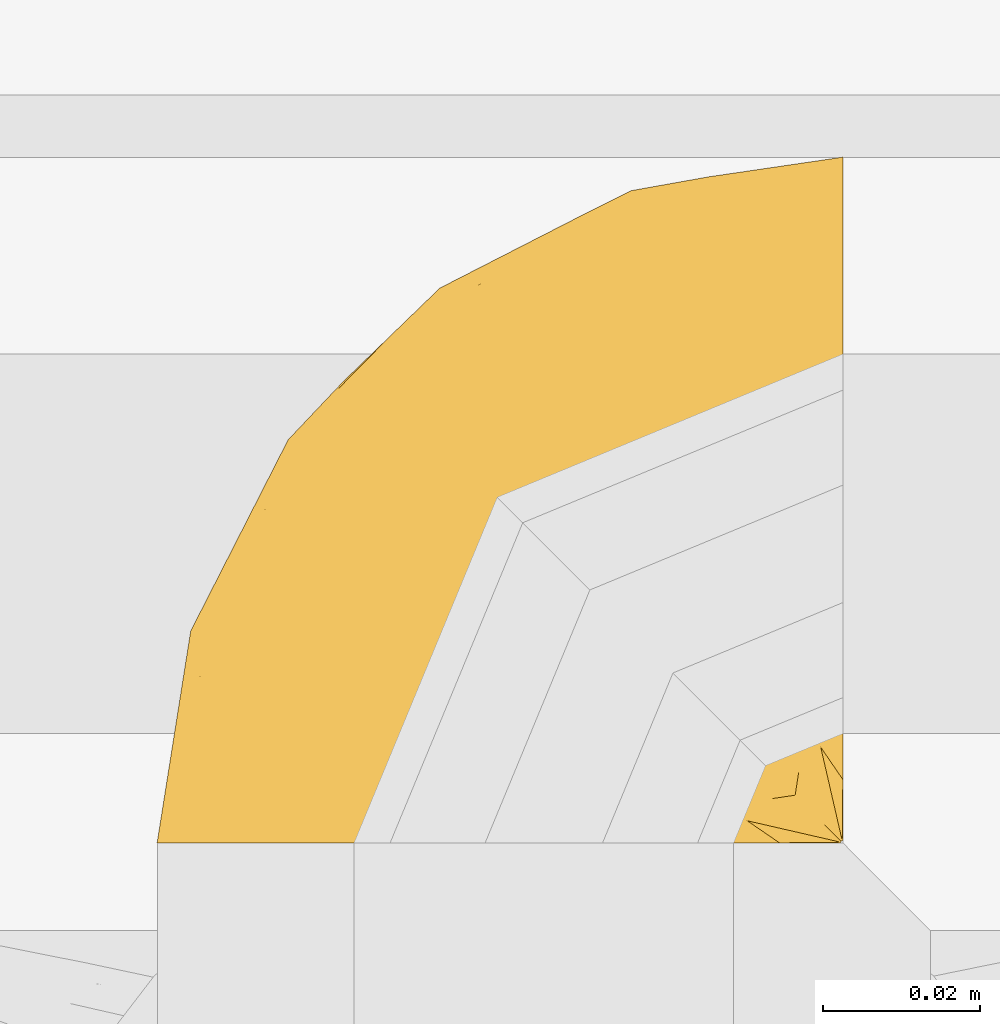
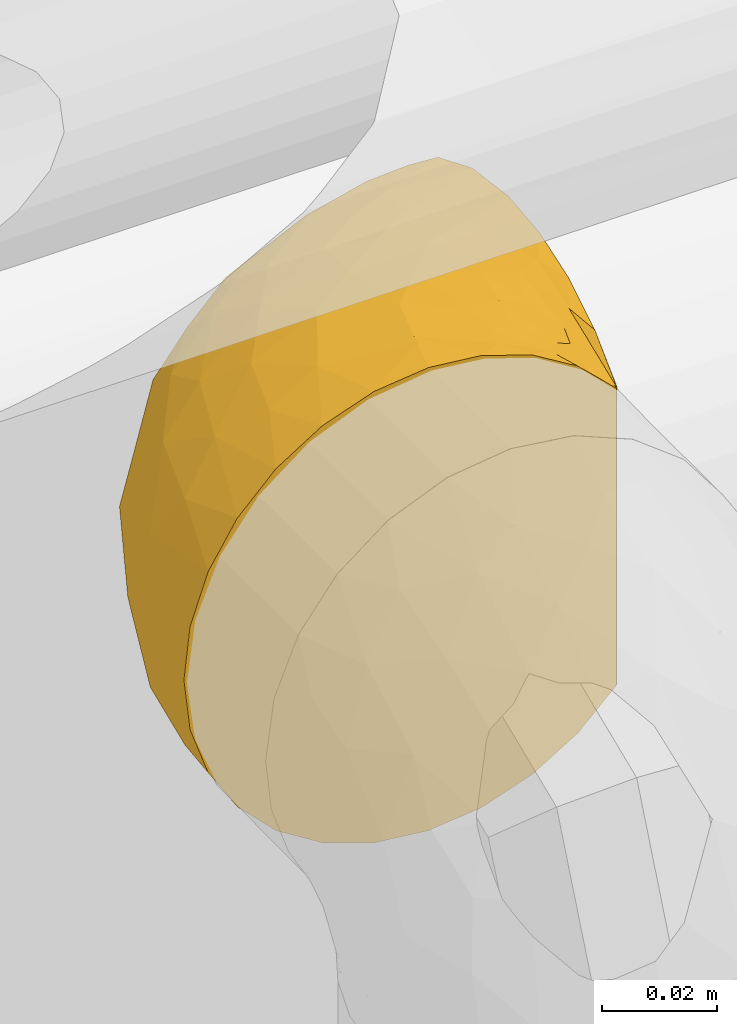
# One storey, part 48 of 94: 1 covering.
"""IFC2X3 building model written with IfcOpenShell, lengths in millimetres."""

from ifc_helpers import new_model, entity, si_unit, converted_unit, derived_unit, direction, frame, origin, place, context, subcontext, project, spatial, faceted_brep, material, element, save


model = new_model("IFC2X3")

# Units and contexts
model_context = context("Model", 3, precision=0.01, world=origin(), true_north=direction((6.123031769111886e-17, 1.0)))
body_context = subcontext(model_context, "Body", "Model", "MODEL_VIEW")
ifc_project = project(units=[si_unit("LENGTHUNIT", "METRE", prefix="MILLI"), si_unit("AREAUNIT", "SQUARE_METRE"), si_unit("VOLUMEUNIT", "CUBIC_METRE"), converted_unit("PLANEANGLEUNIT", "DEGREE", entity("IfcRatioMeasure", 0.017453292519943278), si_unit("PLANEANGLEUNIT", "RADIAN"), dimensions=[0, 0, 0, 0, 0, 0, 0]), si_unit("MASSUNIT", "GRAM", prefix="KILO"), derived_unit("MASSDENSITYUNIT", [(si_unit("MASSUNIT", "GRAM", prefix="KILO"), 1), (si_unit("LENGTHUNIT", "METRE"), -3)]), derived_unit("IONCONCENTRATIONUNIT", [(si_unit("MASSUNIT", "GRAM", prefix="KILO"), 1), (si_unit("LENGTHUNIT", "METRE"), -3)]), derived_unit("MOMENTOFINERTIAUNIT", [(si_unit("LENGTHUNIT", "METRE"), 4)]), si_unit("TIMEUNIT", "SECOND"), si_unit("FREQUENCYUNIT", "HERTZ"), si_unit("THERMODYNAMICTEMPERATUREUNIT", "DEGREE_CELSIUS"), derived_unit("THERMALTRANSMITTANCEUNIT", [(si_unit("MASSUNIT", "GRAM", prefix="KILO"), 1), (si_unit("THERMODYNAMICTEMPERATUREUNIT", "KELVIN"), -1), (si_unit("TIMEUNIT", "SECOND"), -3)]), derived_unit("THERMALCONDUCTANCEUNIT", [(si_unit("MASSUNIT", "GRAM", prefix="KILO"), 1), (si_unit("THERMODYNAMICTEMPERATUREUNIT", "KELVIN"), -1), (si_unit("TIMEUNIT", "SECOND"), -3), (si_unit("LENGTHUNIT", "METRE"), 1)]), derived_unit("VOLUMETRICFLOWRATEUNIT", [(si_unit("LENGTHUNIT", "METRE"), 3), (si_unit("TIMEUNIT", "SECOND"), -1)]), derived_unit("MASSFLOWRATEUNIT", [(si_unit("MASSUNIT", "GRAM", prefix="KILO"), 1), (si_unit("TIMEUNIT", "SECOND"), -1)]), derived_unit("ROTATIONALFREQUENCYUNIT", [(si_unit("TIMEUNIT", "SECOND"), -1)]), si_unit("ELECTRICCURRENTUNIT", "AMPERE"), si_unit("ELECTRICVOLTAGEUNIT", "VOLT"), si_unit("POWERUNIT", "WATT"), si_unit("FORCEUNIT", "NEWTON", prefix="KILO"), si_unit("ILLUMINANCEUNIT", "LUX"), si_unit("LUMINOUSFLUXUNIT", "LUMEN"), si_unit("LUMINOUSINTENSITYUNIT", "CANDELA"), derived_unit("USERDEFINED", [(si_unit("MASSUNIT", "GRAM", prefix="KILO"), -1), (si_unit("LENGTHUNIT", "METRE"), -2), (si_unit("TIMEUNIT", "SECOND"), 3), (si_unit("LUMINOUSFLUXUNIT", "LUMEN"), 1)]), derived_unit("USERDEFINED", [(si_unit("MASSUNIT", "GRAM", prefix="KILO"), 1), (si_unit("TIMEUNIT", "SECOND"), -3), (si_unit("LENGTHUNIT", "METRE"), 3), (si_unit("ELECTRICCURRENTUNIT", "AMPERE"), -2)]), derived_unit("SOUNDPOWERUNIT", [(si_unit("MASSUNIT", "GRAM", prefix="KILO"), 1), (si_unit("TIMEUNIT", "SECOND"), -3), (si_unit("LENGTHUNIT", "METRE"), 2)]), derived_unit("SOUNDPRESSUREUNIT", [(si_unit("MASSUNIT", "GRAM", prefix="KILO"), 1), (si_unit("LENGTHUNIT", "METRE"), -1), (si_unit("TIMEUNIT", "SECOND"), -2)]), derived_unit("LINEARVELOCITYUNIT", [(si_unit("LENGTHUNIT", "METRE"), 1), (si_unit("TIMEUNIT", "SECOND"), -1)]), si_unit("PRESSUREUNIT", "PASCAL"), derived_unit("USERDEFINED", [(si_unit("MASSUNIT", "GRAM", prefix="KILO"), 1), (si_unit("LENGTHUNIT", "METRE"), -2), (si_unit("TIMEUNIT", "SECOND"), -2)]), derived_unit("LINEARFORCEUNIT", [(si_unit("MASSUNIT", "GRAM", prefix="KILO"), 1), (si_unit("TIMEUNIT", "SECOND"), -2)]), derived_unit("PLANARFORCEUNIT", [(si_unit("MASSUNIT", "GRAM", prefix="KILO"), 1), (si_unit("LENGTHUNIT", "METRE"), -1), (si_unit("TIMEUNIT", "SECOND"), -2)]), derived_unit("SPECIFICHEATCAPACITYUNIT", [(si_unit("THERMODYNAMICTEMPERATUREUNIT", "KELVIN"), -1), (si_unit("LENGTHUNIT", "METRE"), 2), (si_unit("TIMEUNIT", "SECOND"), -2)]), derived_unit("HEATINGVALUEUNIT", [(si_unit("LENGTHUNIT", "METRE"), 2), (si_unit("TIMEUNIT", "SECOND"), -2)]), derived_unit("VAPORPERMEABILITYUNIT", [(si_unit("LENGTHUNIT", "METRE"), -1), (si_unit("TIMEUNIT", "SECOND"), 1)]), derived_unit("DYNAMICVISCOSITYUNIT", [(si_unit("MASSUNIT", "GRAM", prefix="KILO"), 1), (si_unit("TIMEUNIT", "SECOND"), -1), (si_unit("LENGTHUNIT", "METRE"), -1)]), derived_unit("THERMALEXPANSIONCOEFFICIENTUNIT", [(si_unit("THERMODYNAMICTEMPERATUREUNIT", "KELVIN"), -1)]), derived_unit("MODULUSOFELASTICITYUNIT", [(si_unit("MASSUNIT", "GRAM", prefix="KILO"), 1), (si_unit("LENGTHUNIT", "METRE"), -1), (si_unit("TIMEUNIT", "SECOND"), -2)]), derived_unit("ISOTHERMALMOISTURECAPACITYUNIT", [(si_unit("LENGTHUNIT", "METRE"), 3), (si_unit("MASSUNIT", "GRAM", prefix="KILO"), -1)]), derived_unit("MOISTUREDIFFUSIVITYUNIT", [(si_unit("TIMEUNIT", "SECOND"), -1), (si_unit("LENGTHUNIT", "METRE"), 2)])], contexts=[model_context])

# Site, building, storey
site_placement = place(None, origin())
site = spatial("IfcSite", under=ifc_project, at=site_placement, Name="Default", CompositionType="ELEMENT")
building_placement = place(site_placement, origin())
building = spatial("IfcBuilding", under=site, at=building_placement, CompositionType="ELEMENT")
storey_placement = place(building_placement, origin())
storey = spatial("IfcBuildingStorey", under=building, at=storey_placement, Name="Niveau 0", CompositionType="ELEMENT", Elevation=0.0)

# Covering
ifc_material = material(Name="Isolation - Laine minérale")
covering_placement = place(storey_placement, frame((-7722.8911377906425, 9987.25035233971, 2299.2547277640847)))
element("IfcCovering", 1, at=covering_placement, inside=storey, material=ifc_material, Name="Isolation des canalisations:Laine minérale", ObjectType="Isolation des canalisations:Laine minérale", PredefinedType="INSULATION", context=body_context, shape_type="Brep", body=[
    faceted_brep([(29.412134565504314, 1.5952722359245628, 95.02415814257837), (20.093252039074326, 1.5952722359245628, 89.16631019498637), (12.312548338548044, 1.5952722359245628, 81.38263886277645), (6.459227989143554, 1.5952722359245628, 72.06354573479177), (2.8261403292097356, 1.5952722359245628, 61.67593083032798), (1.5952722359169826, 1.5952722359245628, 50.74527223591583), (2.8288129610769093, 1.5952722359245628, 39.80290363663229), (6.466386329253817, 1.5952722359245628, 29.4121345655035), (12.324234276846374, 1.5952722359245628, 20.093252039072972), (20.107905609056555, 1.5952722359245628, 12.312548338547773), (29.42699873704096, 1.5952722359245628, 6.459227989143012), (39.81461364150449, 1.5952722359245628, 2.826140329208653), (50.74527223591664, 1.5952722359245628, 1.5952722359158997), (61.40435822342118, 1.5952722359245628, 2.765001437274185), (71.55257335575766, 1.5952722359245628, 6.216868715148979), (80.70896636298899, 1.5952722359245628, 11.785042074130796), (88.43165280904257, 1.5952722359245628, 19.194373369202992), (88.43165280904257, 1.5952722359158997, 21.638642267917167), (88.43165280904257, 1.5952722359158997, 23.415694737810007), (88.43165280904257, 1.5952722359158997, 25.192747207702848), (88.43165280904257, 1.5952722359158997, 26.692340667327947), (88.43165280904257, 1.5952722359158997, 28.191934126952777), (88.43165280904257, 1.5952722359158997, 31.191121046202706), (88.43165280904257, 1.5952722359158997, 34.19030796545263), (88.43165280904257, 1.5952722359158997, 37.18949488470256), (88.43165280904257, 1.5952722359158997, 40.18868180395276), (88.43165280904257, 1.5952722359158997, 41.688275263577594), (88.43165280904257, 1.5952722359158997, 43.18786872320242), (88.43165280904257, 1.5952722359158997, 45.6321376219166), (88.43165280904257, 1.5952722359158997, 48.07640652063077), (88.43165280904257, 1.5952722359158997, 50.52067541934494), (88.43165280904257, 1.5952722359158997, 52.96494431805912), (88.43165280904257, 1.5952722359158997, 55.40921321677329), (88.43165280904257, 1.5952722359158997, 57.853482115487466), (88.43165280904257, 1.5952722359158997, 60.29775101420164), (88.43165280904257, 1.5952722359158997, 62.742019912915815), (88.43165280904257, 1.5952722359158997, 65.18628881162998), (88.43165280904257, 1.5952722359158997, 67.63055771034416), (88.43165280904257, 1.5952722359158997, 70.07482660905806), (88.43165280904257, 1.5952722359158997, 72.51909550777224), (88.43165280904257, 1.5952722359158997, 74.96336440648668), (88.43165280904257, 1.5952722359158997, 77.40763330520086), (88.43165280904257, 1.5952722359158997, 79.85190220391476), (88.43165280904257, 1.5952722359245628, 82.29617110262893), (80.69235262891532, 1.5952722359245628, 89.71827412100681), (71.53113811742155, 1.5952722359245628, 95.28368576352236), (61.383900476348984, 1.5952722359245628, 98.7300832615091), (50.74527223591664, 1.5952722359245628, 99.89527223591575), (39.802903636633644, 1.5952722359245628, 98.6617315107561), (88.74527223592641, 1.908891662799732, 19.194373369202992), (88.74527223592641, 9.641963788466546, 11.777056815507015), (88.74527223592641, 18.798688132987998, 6.211862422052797), (88.74527223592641, 28.94385431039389, 2.7632985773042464), (88.74527223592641, 39.59527223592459, 1.5952722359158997), (88.74527223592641, 52.31622830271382, 3.2700178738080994), (88.74527223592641, 64.1702722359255, 8.180123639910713), (88.74527223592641, 74.34957053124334, 15.990973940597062), (88.74527223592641, 82.16042083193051, 26.17027223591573), (88.74527223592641, 87.07052659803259, 38.02431616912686), (88.74527223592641, 88.74527223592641, 50.74527223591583), (88.74527223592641, 87.07052659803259, 63.46622830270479), (88.74527223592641, 82.16042083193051, 75.32027223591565), (88.74527223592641, 74.34957053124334, 85.49957053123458), (88.74527223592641, 64.1702722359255, 93.31042083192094), (88.74527223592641, 52.31622830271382, 98.22052659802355), (88.74527223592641, 39.59527223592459, 99.89527223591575), (88.74527223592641, 28.94385431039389, 98.7272458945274), (88.74527223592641, 18.798688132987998, 95.27868204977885), (88.74527223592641, 9.641963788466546, 89.7134876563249), (88.74527223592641, 1.908891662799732, 82.29617110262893), (88.74527223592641, 1.908891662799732, 79.85190220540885), (88.74527223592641, 1.908891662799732, 78.35230874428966), (88.74527223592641, 1.908891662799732, 76.38037756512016), (88.74527223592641, 1.908891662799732, 74.40844638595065), (88.74527223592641, 1.908891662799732, 72.43651520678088), (88.74527223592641, 1.908891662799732, 70.46458402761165), (88.74527223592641, 1.908891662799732, 68.49265284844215), (88.74527223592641, 1.908891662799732, 66.52072166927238), (88.74527223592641, 1.908891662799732, 64.54879049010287), (88.74527223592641, 1.908891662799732, 62.57685931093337), (88.74527223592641, 1.908891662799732, 60.60492813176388), (88.74527223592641, 1.908891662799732, 58.632996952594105), (88.74527223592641, 1.908891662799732, 56.66106577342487), (88.74527223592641, 1.908891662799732, 54.6891345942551), (88.74527223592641, 1.908891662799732, 52.7172034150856), (88.74527223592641, 1.908891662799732, 50.7452722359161), (88.74527223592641, 1.908891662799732, 48.773341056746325), (88.74527223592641, 1.908891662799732, 46.80140987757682), (88.74527223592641, 1.908891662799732, 44.82947869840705), (88.74527223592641, 1.908891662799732, 42.85754751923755), (88.74527223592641, 1.908891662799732, 40.88561634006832), (88.74527223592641, 1.908891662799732, 38.913685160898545), (88.74527223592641, 1.908891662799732, 36.94175398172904), (88.74527223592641, 1.908891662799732, 34.96982280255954), (88.74527223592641, 1.908891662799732, 31.970635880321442), (88.74527223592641, 1.908891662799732, 28.971448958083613), (88.74527223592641, 1.908891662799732, 26.527180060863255), (88.74527223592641, 1.908891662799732, 24.082911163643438), (88.74527223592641, 1.908891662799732, 21.63864226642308), (88.53090125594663, 1.8241875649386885, 53.75333970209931), (88.52210831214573, 1.8156242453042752, 51.832765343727), (88.52122178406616, 1.8147227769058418, 61.47290163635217), (88.52777998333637, 1.8212241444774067, 63.56282540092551), (88.54092532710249, 1.8331787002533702, 48.00102702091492), (88.53506454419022, 1.828016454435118, 77.24999397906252), (88.49130573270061, 1.7792781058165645, 80.69913834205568), (88.51810292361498, 1.8114926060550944, 42.43807145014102), (88.52350981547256, 1.817034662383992, 22.860776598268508), (88.52548149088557, 1.81898896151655, 24.700216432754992), (88.5165327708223, 1.8098308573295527, 71.37008955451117), (88.52674320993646, 1.820221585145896, 73.40383885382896), (88.50469006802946, 1.7964621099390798, 44.41000264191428), (88.52964682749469, 1.8230063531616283, 37.92771907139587), (88.53317608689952, 1.826296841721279, 39.81308540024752), (88.51585328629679, 1.8091041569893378, 35.95578792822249), (88.52914218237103, 1.8225274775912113, 49.75930651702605), (88.52350981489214, 1.817034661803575, 79.10210557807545), (88.52591800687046, 1.8194169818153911, 21.027574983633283), (88.53664906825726, 1.8294378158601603, 55.67510065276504), (88.53747885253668, 1.8301744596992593, 67.50668767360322), (88.532731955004, 1.825888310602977, 65.61454699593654), (88.53426299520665, 1.8272900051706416, 34.10458092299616), (88.5337000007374, 1.8267767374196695, 57.55217518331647), (88.53493173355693, 1.8278964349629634, 75.39441218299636), (88.52350981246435, 1.8170346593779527, 82.29617110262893), (88.49487979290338, 1.747915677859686, 82.29617110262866), (88.46624977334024, 1.6787966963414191, 82.29617110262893), (88.52350981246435, 1.8170346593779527, 19.194373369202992), (88.59262879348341, 1.8456646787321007, 19.194373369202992), (88.66174777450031, 1.8742946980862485, 19.194373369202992), (88.51000647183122, 1.8026539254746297, 32.212157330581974), (88.53042484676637, 1.8237404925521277, 69.43559223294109), (88.5224676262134, 1.8159875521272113, 46.24828797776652), (88.52470424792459, 1.8182226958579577, 59.49061335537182), (88.5057932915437, 1.7977740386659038, 29.419252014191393), (88.5274414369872, 1.8208977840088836, 27.442137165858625), (88.66174777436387, 1.8742946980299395, 82.29617110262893), (88.5926287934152, 1.8456646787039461, 82.29617110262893), (88.46624977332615, 1.678796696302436, 19.194373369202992), (88.4948797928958, 1.7479156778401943, 19.194373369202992), (85.22080157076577, 23.495219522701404, 4.210283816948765), (85.93611072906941, 13.747756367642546, 8.74417984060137), (81.0780784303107, 22.409779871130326, 4.210283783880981), (83.13289242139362, 10.562522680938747, 9.955583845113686), (79.24527223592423, 37.049754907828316, 1.5952722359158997), (81.28890223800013, 37.59734391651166, 1.5952722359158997), (55.83630689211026, 20.595272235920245, 1.5952722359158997), (66.39553001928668, 16.02014974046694, 2.93549782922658), (67.9404040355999, 9.26167767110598, 4.213452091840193), (69.74527223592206, 34.50423757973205, 1.5952722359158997), (80.67378389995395, 9.667897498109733, 9.405305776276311), (79.7889209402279, 7.2029124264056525, 9.963487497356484), (74.32109358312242, 23.944746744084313, 2.935641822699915), (66.85470593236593, 5.119390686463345, 4.213452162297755), (76.60336361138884, 4.4028932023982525, 8.750654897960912), (79.64911936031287, 17.541506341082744, 5.69062779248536), (52.743200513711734, 9.051642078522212, 1.5952722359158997), (53.29078956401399, 11.095272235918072, 1.5952722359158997), (73.61168493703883, 16.728859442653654, 4.482619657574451), (62.790789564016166, 27.549754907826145, 1.5952722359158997), (73.87988529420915, 12.071559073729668, 5.766057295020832), (75.32913676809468, 47.623950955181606, 2.6117250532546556), (65.9107418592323, 44.00144112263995, 2.657531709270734), (53.847614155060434, 58.899698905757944, 11.131578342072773), (59.13651173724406, 72.66771487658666, 20.82464790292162), (71.166122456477, 67.20155656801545, 11.751954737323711), (67.0054527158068, 54.07984229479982, 5.336592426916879), (78.8805128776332, 57.54110754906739, 5.336592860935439), (37.51978749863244, 72.10110329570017, 50.74527223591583), (61.81444117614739, 84.47984763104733, 50.74527223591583), (53.875201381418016, 80.24801351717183, 40.33973954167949), (25.784943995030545, 13.851436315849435, 9.12424327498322), (36.24418276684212, 15.165285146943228, 4.351045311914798), (29.56288236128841, 60.77765845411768, 32.64695426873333), (30.77068194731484, 55.38583609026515, 23.76890934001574), (15.292222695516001, 43.89737524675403, 35.61531809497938), (71.31385843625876, 86.12648113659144, 41.696133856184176), (47.2410274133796, 73.23168363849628, 30.50981773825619), (43.50389303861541, 64.74738573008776, 21.748430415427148), (75.2898525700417, 77.40373146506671, 20.824647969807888), (67.10273039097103, 82.14716981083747, 31.93638275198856), (37.099200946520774, 52.829115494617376, 15.984346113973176), (44.51517687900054, 48.878965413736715, 9.509703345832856), (33.70477633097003, 40.607220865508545, 11.405769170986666), (44.05169469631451, 28.769953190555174, 3.7235321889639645), (30.044081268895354, 27.448445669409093, 9.124242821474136), (18.312338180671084, 19.800365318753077, 15.984347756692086), (5.8606968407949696, 28.52610329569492, 50.74527223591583), (7.041406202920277, 22.71562192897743, 34.50535109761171), (25.614469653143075, 42.31748570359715, 18.53593481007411), (15.886915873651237, 33.68382770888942, 24.588194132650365), (10.600409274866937, 16.806973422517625, 24.588193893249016), (38.50378416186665, 71.07858054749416, 39.07585882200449), (25.345180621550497, 60.332491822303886, 42.346184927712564), (53.163504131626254, 33.37332146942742, 2.5632520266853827), (18.239441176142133, 52.82075697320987, 50.74527223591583), (52.694698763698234, 43.46542968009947, 4.722449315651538), (58.17589226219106, 79.20017463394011, 69.55416102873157), (71.70091272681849, 86.24488809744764, 59.58510784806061), (54.57433327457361, 80.83807017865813, 59.865425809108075), (42.49805076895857, 72.52816019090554, 66.13789702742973), (75.06235489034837, 83.87397883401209, 69.55416221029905), (24.5251412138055, 35.798660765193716, 85.49332197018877), (25.786342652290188, 48.02046276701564, 78.98858976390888), (15.878231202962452, 33.68736739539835, 76.88743080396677), (37.089792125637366, 52.83844921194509, 85.49294527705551), (35.71336208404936, 59.75598123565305, 78.28666517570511), (36.231508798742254, 15.17001623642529, 97.1347911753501), (70.53804152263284, 45.55141709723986, 98.95303587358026), (69.74527223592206, 34.50423757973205, 99.89527223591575), (79.24527223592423, 37.049754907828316, 99.89527223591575), (7.0362994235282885, 22.71467774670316, 66.97173870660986), (69.24086116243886, 76.07714087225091, 80.66589652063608), (30.030512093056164, 27.454651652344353, 92.35692696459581), (25.77024521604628, 13.854008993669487, 92.35692651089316), (76.87540408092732, 68.47065883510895, 89.73858944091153), (74.00473445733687, 56.45843349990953, 96.15395178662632), (48.41047025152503, 68.0885450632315, 79.62483877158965), (62.62553049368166, 64.29272071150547, 89.73859028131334), (31.220776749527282, 66.01125638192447, 59.508159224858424), (29.560345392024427, 60.78019542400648, 68.8345286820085), (79.82666983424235, 48.01911236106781, 99.01263503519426), (10.591274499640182, 16.809109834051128, 76.887431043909), (15.287247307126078, 43.900853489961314, 65.85652255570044), (18.29950680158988, 19.803681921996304, 85.49294363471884), (44.04987097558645, 28.78672684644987, 97.76388503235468), (55.83630689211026, 20.595272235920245, 99.89527223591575), (54.23536248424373, 35.48506655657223, 98.78930951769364), (62.790789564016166, 27.549754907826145, 99.89527223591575), (52.74320051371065, 9.051642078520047, 99.89527223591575), (53.29078956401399, 11.095272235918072, 99.89527223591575), (48.412115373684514, 53.16291239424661, 91.50386042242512), (64.143047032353, 52.0530845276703, 96.42683125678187), (40.10640265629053, 41.40103739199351, 93.1499194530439), (62.89073418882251, 40.721221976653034, 99.08337182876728), (47.672778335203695, 60.91677547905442, 86.09107557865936), (55.38955823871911, 45.94061161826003, 96.67816905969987), (81.07807840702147, 22.409778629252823, 97.28026029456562), (78.26566497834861, 16.464254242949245, 95.72662397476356), (74.32072912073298, 23.943292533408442, 98.55465842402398), (85.22080145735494, 23.49521891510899, 97.2802604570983), (85.93611080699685, 13.747755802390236, 92.74636428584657), (83.13257230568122, 10.564867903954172, 91.53641117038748), (82.68198005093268, 7.656624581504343, 90.11275627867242), (73.61706381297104, 16.72348133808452, 97.00519514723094), (79.75777141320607, 7.216517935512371, 91.54965419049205), (67.91845358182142, 9.263185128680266, 97.28427045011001), (66.83334757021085, 5.119593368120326, 97.284270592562), (76.58449008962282, 4.4058785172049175, 92.75147496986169), (66.39770760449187, 16.01862728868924, 98.55441347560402), (72.78382599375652, 10.692146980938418, 95.80583125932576)], [[[0, 1, 2, 3, 4, 5, 6, 7, 8, 9, 10, 11, 12, 13, 14, 15, 16, 17, 18, 19, 20, 21, 22, 23, 24, 25, 26, 27, 28, 29, 30, 31, 32, 33, 34, 35, 36, 37, 38, 39, 40, 41, 42, 43, 44, 45, 46, 47, 48]], [[49, 50, 51, 52, 53, 54, 55, 56, 57, 58, 59, 60, 61, 62, 63, 64, 65, 66, 67, 68, 69, 70, 71, 72, 73, 74, 75, 76, 77, 78, 79, 80, 81, 82, 83, 84, 85, 86, 87, 88, 89, 90, 91, 92, 93, 94, 95, 96, 97, 98]], [[99, 100, 84]], [[101, 102, 35]], [[86, 103, 87]], [[72, 71, 104]], [[105, 70, 69]], [[27, 26, 106]], [[18, 107, 108]], [[109, 74, 110]], [[28, 27, 111]], [[25, 112, 113]], [[108, 97, 96]], [[114, 93, 92]], [[103, 86, 115]], [[97, 107, 98]], [[116, 71, 70]], [[107, 17, 117]], [[79, 102, 101]], [[99, 118, 32]], [[77, 119, 120]], [[121, 93, 114]], [[112, 91, 113]], [[89, 111, 106]], [[40, 39, 110]], [[107, 97, 108]], [[32, 118, 122]], [[92, 91, 112]], [[37, 120, 119]], [[85, 115, 86]], [[70, 105, 116]], [[72, 123, 73]], [[105, 124, 125, 126, 43]], [[117, 17, 16]], [[41, 116, 42]], [[117, 127, 128, 129, 49]], [[110, 123, 40]], [[42, 116, 105]], [[121, 23, 130]], [[24, 114, 112]], [[114, 24, 23]], [[104, 123, 72]], [[92, 112, 114]], [[104, 116, 41]], [[24, 112, 25]], [[110, 73, 123]], [[36, 120, 37]], [[40, 123, 41]], [[75, 74, 109]], [[131, 76, 75]], [[119, 131, 37]], [[109, 110, 39]], [[109, 39, 38]], [[74, 73, 110]], [[123, 104, 41]], [[116, 104, 71]], [[26, 25, 113]], [[113, 90, 106]], [[88, 87, 132]], [[113, 106, 26]], [[77, 76, 119]], [[132, 111, 88]], [[106, 111, 27]], [[132, 28, 111]], [[88, 111, 89]], [[89, 106, 90]], [[113, 91, 90]], [[131, 119, 76]], [[38, 37, 131]], [[120, 36, 102]], [[131, 109, 38]], [[109, 131, 75]], [[79, 78, 102]], [[78, 120, 102]], [[78, 77, 120]], [[122, 81, 133]], [[36, 35, 102]], [[33, 122, 133]], [[80, 79, 101]], [[34, 101, 35]], [[132, 29, 28]], [[81, 80, 133]], [[29, 103, 115]], [[30, 29, 115]], [[87, 103, 132]], [[100, 115, 85]], [[31, 30, 100]], [[115, 100, 30]], [[32, 31, 99]], [[118, 82, 122]], [[100, 85, 84]], [[99, 83, 118]], [[82, 118, 83]], [[33, 32, 122]], [[83, 99, 84]], [[100, 99, 31]], [[34, 33, 133]], [[122, 82, 81]], [[133, 101, 34]], [[101, 133, 80]], [[134, 95, 94]], [[23, 121, 114]], [[132, 103, 29]], [[121, 94, 93]], [[94, 121, 130]], [[98, 107, 117]], [[108, 20, 19, 18]], [[21, 135, 134]], [[20, 135, 21]], [[134, 135, 95]], [[108, 96, 135]], [[108, 135, 20]], [[135, 96, 95]], [[134, 22, 21]], [[130, 22, 134]], [[42, 105, 43]], [[105, 69, 136, 137, 124]], [[98, 117, 49]], [[117, 16, 138, 139, 127]], [[18, 17, 107]], [[94, 130, 134]], [[22, 130, 23]], [[140, 141, 142]], [[143, 129, 128, 127]], [[52, 144, 145, 53]], [[146, 147, 148]], [[142, 149, 144]], [[150, 127, 151]], [[51, 140, 52]], [[142, 152, 149]], [[52, 140, 144]], [[129, 143, 141]], [[14, 13, 153]], [[148, 151, 154]], [[155, 141, 143]], [[151, 138, 154]], [[14, 153, 154]], [[16, 15, 138]], [[13, 12, 156, 157]], [[152, 155, 158]], [[159, 158, 147]], [[157, 148, 153]], [[14, 154, 15]], [[50, 49, 129]], [[50, 129, 141]], [[141, 51, 50]], [[160, 148, 147]], [[146, 148, 157]], [[138, 15, 154]], [[150, 158, 155]], [[151, 127, 139, 138]], [[141, 140, 51]], [[144, 140, 142]], [[157, 153, 13]], [[154, 153, 148]], [[149, 152, 159]], [[160, 147, 158]], [[147, 146, 159]], [[155, 152, 142]], [[159, 152, 158]], [[127, 150, 143]], [[160, 150, 151]], [[150, 160, 158]], [[148, 160, 151]], [[141, 155, 142]], [[155, 143, 150]], [[156, 12, 11]], [[161, 149, 162]], [[163, 164, 165]], [[166, 167, 161]], [[168, 169, 170]], [[55, 165, 56]], [[171, 172, 10]], [[173, 174, 175]], [[58, 176, 59]], [[173, 177, 178]], [[179, 57, 56]], [[55, 167, 165]], [[170, 180, 177]], [[57, 179, 180]], [[167, 55, 54]], [[181, 182, 183]], [[184, 146, 172]], [[172, 185, 184]], [[186, 185, 171]], [[186, 9, 8]], [[172, 146, 157, 156]], [[172, 11, 10]], [[173, 178, 174]], [[6, 187, 188]], [[189, 186, 190]], [[191, 186, 8]], [[175, 190, 188]], [[168, 192, 193]], [[189, 190, 174]], [[57, 180, 58]], [[8, 7, 191]], [[188, 7, 6]], [[6, 5, 187]], [[190, 191, 188]], [[159, 194, 162]], [[175, 187, 195]], [[177, 180, 164]], [[10, 9, 171]], [[176, 180, 170]], [[156, 11, 172]], [[163, 165, 166]], [[179, 165, 164]], [[54, 53, 145]], [[185, 189, 183]], [[184, 196, 194]], [[188, 191, 7]], [[186, 191, 190]], [[186, 171, 9]], [[172, 171, 185]], [[187, 175, 188]], [[193, 175, 195]], [[196, 163, 166]], [[163, 181, 178]], [[162, 166, 161]], [[184, 185, 183]], [[178, 177, 164]], [[177, 192, 170]], [[177, 173, 192]], [[176, 170, 169]], [[59, 176, 169]], [[58, 180, 176]], [[193, 192, 173]], [[168, 170, 192]], [[175, 193, 173]], [[168, 193, 195]], [[163, 178, 164]], [[184, 194, 146]], [[178, 181, 174]], [[189, 174, 181]], [[175, 174, 190]], [[183, 189, 181]], [[186, 189, 185]], [[182, 181, 163]], [[183, 182, 184]], [[163, 196, 182]], [[184, 182, 196]], [[165, 179, 56]], [[180, 179, 164]], [[161, 54, 145]], [[165, 167, 166]], [[54, 161, 167]], [[161, 145, 144, 149]], [[159, 162, 149]], [[196, 166, 162]], [[162, 194, 196]], [[146, 194, 159]], [[197, 198, 199]], [[59, 169, 198]], [[197, 199, 200]], [[198, 197, 201]], [[202, 203, 204]], [[61, 60, 201]], [[205, 206, 203]], [[0, 48, 207]], [[208, 209, 210]], [[187, 4, 211]], [[201, 212, 61]], [[213, 214, 207]], [[62, 215, 63]], [[63, 215, 216]], [[3, 211, 4]], [[217, 218, 212]], [[219, 220, 200]], [[216, 208, 221]], [[3, 2, 222]], [[63, 216, 64]], [[62, 61, 212]], [[211, 3, 222]], [[5, 4, 187]], [[217, 197, 200]], [[203, 223, 204]], [[2, 1, 224]], [[225, 213, 207]], [[204, 222, 224]], [[1, 0, 214]], [[204, 224, 202]], [[207, 226, 225]], [[227, 226, 228]], [[223, 211, 204]], [[214, 224, 1]], [[202, 224, 213]], [[48, 47, 229]], [[207, 229, 230, 226]], [[211, 223, 187]], [[218, 231, 232]], [[48, 229, 207]], [[205, 233, 231]], [[233, 213, 225]], [[217, 212, 197]], [[215, 212, 218]], [[228, 234, 227]], [[233, 205, 202]], [[208, 234, 209]], [[64, 221, 65]], [[235, 205, 231]], [[207, 214, 0]], [[224, 214, 213]], [[224, 222, 2]], [[211, 222, 204]], [[219, 223, 220]], [[187, 223, 195]], [[227, 233, 225]], [[234, 228, 209]], [[231, 233, 236]], [[221, 208, 210]], [[232, 208, 216]], [[65, 221, 210]], [[216, 221, 64]], [[233, 202, 213]], [[203, 202, 205]], [[205, 235, 206]], [[223, 203, 220]], [[200, 206, 217]], [[220, 203, 206]], [[232, 231, 236]], [[235, 218, 217]], [[212, 215, 62]], [[216, 215, 218]], [[218, 232, 216]], [[234, 232, 236]], [[232, 234, 208]], [[234, 236, 227]], [[233, 227, 236]], [[226, 227, 225]], [[198, 201, 60]], [[212, 201, 197]], [[59, 198, 60]], [[198, 169, 199]], [[169, 168, 199]], [[219, 200, 199]], [[219, 199, 168]], [[200, 220, 206]], [[168, 195, 219]], [[223, 219, 195]], [[218, 235, 231]], [[206, 235, 217]], [[66, 65, 210]], [[209, 237, 210]], [[238, 237, 239]], [[67, 240, 241]], [[242, 136, 241]], [[243, 137, 242]], [[243, 244, 245]], [[66, 240, 67]], [[136, 69, 68]], [[136, 68, 241]], [[246, 226, 230]], [[67, 241, 68]], [[210, 237, 240]], [[45, 247, 46]], [[209, 239, 237]], [[246, 247, 248]], [[46, 247, 230]], [[249, 250, 244]], [[239, 228, 244]], [[226, 246, 249]], [[250, 248, 245]], [[44, 43, 126]], [[237, 242, 241]], [[248, 45, 44]], [[44, 126, 248]], [[46, 230, 229, 47]], [[245, 126, 125]], [[126, 245, 248]], [[243, 124, 137]], [[210, 240, 66]], [[241, 240, 237]], [[248, 247, 45]], [[230, 247, 246]], [[226, 249, 228]], [[238, 239, 244]], [[239, 209, 228]], [[250, 249, 246]], [[228, 249, 244]], [[243, 242, 238]], [[136, 242, 137]], [[124, 243, 125]], [[125, 243, 245]], [[243, 238, 244]], [[237, 238, 242]], [[248, 250, 246]], [[244, 250, 245]]]),
])

save(model, "model.ifc")
